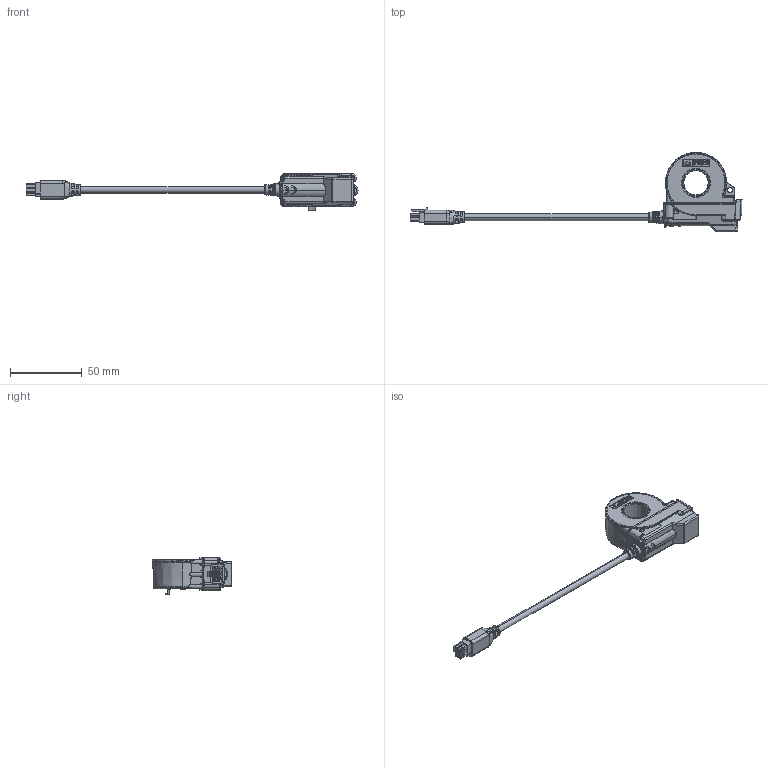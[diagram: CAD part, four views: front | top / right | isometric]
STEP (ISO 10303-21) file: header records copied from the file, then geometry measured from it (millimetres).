
FILE_DESCRIPTION (( 'STEP AP214' ), '1' );
FILE_NAME ('Z152608_CTBC17_Stromwandler_Anschlusskabel.STEP', '2021-03-17T15:50:44', ( '' ), ( '' ), 'SwSTEP 2.0', 'SolidWorks 2021', '' );
FILE_SCHEMA (( 'AUTOMOTIVE_DESIGN' ));
Length unit declared in the file: millimetre
Products named in the file (1): Z152608_CTBC17_Stromwandler_Anschlusskabel
Bounding box: 231.64 x 55.36 x 25.93 mm (x, y, z)
Volume: 15941.3 mm3; surface area: 27632.2 mm2
Topology: 6 solids, 12 shells, 2566 faces, 6353 edges, 3801 vertices
Faces by surface type: plane 815, cylinder 741, bspline 719, torus 150, sphere 102, cone 39
Entity records: 99898 total; most frequent: CARTESIAN_POINT 45423, ORIENTED_EDGE 12564, DIRECTION 9596, EDGE_CURVE 6282, VERTEX_POINT 3801, AXIS2_PLACEMENT_3D 3447, LINE 2702, VECTOR 2702
